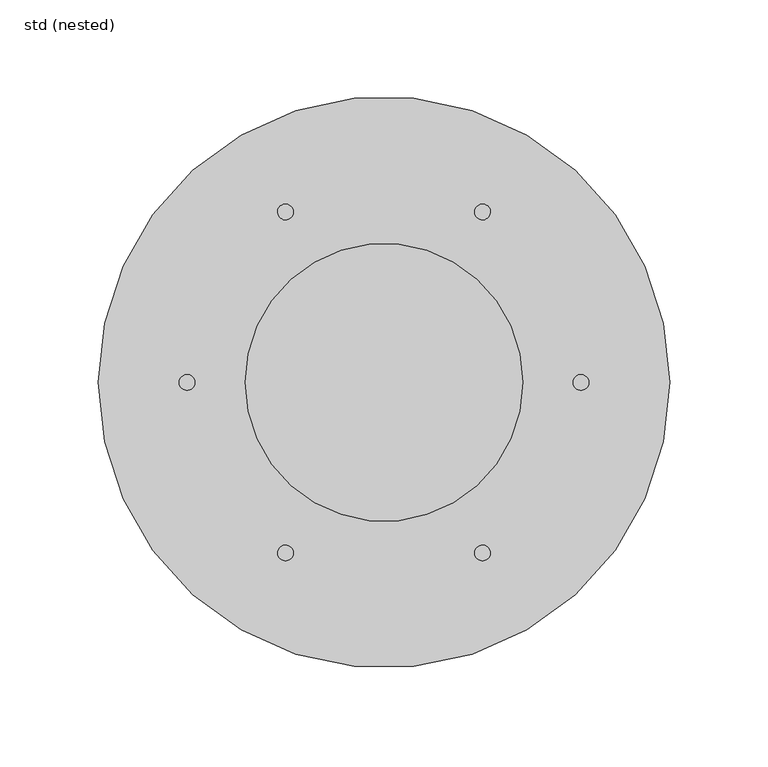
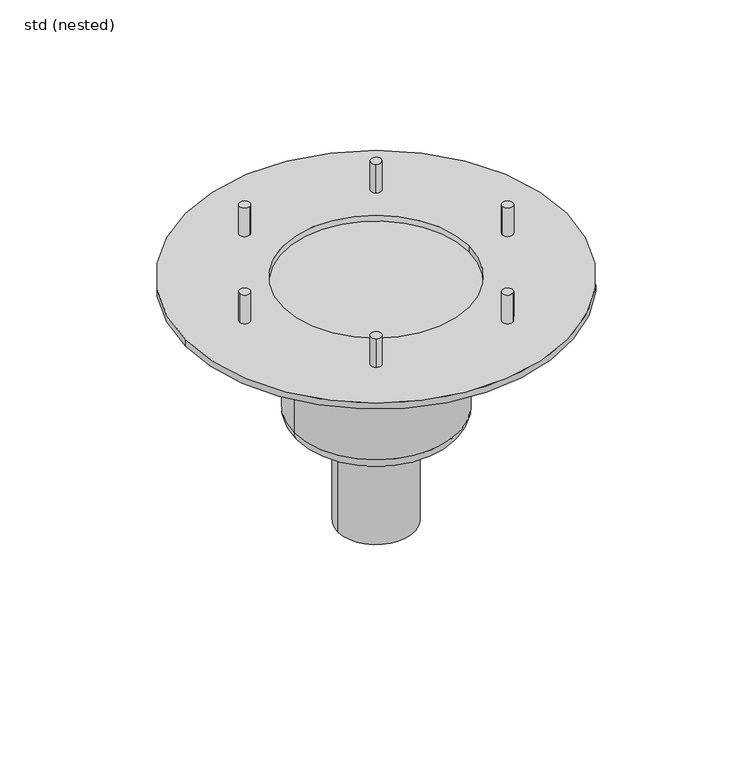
"""IFC4 building model written with IfcOpenShell, lengths in millimetres: sanitary terminal geometry, ZZZ_do not use_PF_CI_WPB_lower section for Passavant Jet_ACO : std (nested)."""

from ifc_helpers import new_model, si_unit, point, frame, frame_2d, origin, origin_with_axes, origin_2d, place, context, project, spatial, circle_curve, ellipse_curve, trimmed, segment, composite_curve, outline, extrude, source, transform, mapped, element, save
from ifc_brep_helpers import plane_surface, cylinder_surface, revolved_surface, advanced_brep


def std_nested_059c46f9(model_context):
    return source(origin(), model_context, "Body", "SolidModel", [
        extrude(outline(composite_curve([segment(trimmed(circle_curve(frame_2d((-50.0, 86.6025404)), 4.0), [point((-52.0, 90.066642))], [point((-48.0, 83.1384388))], False, "CARTESIAN"), True, "CONTINUOUS"), segment(trimmed(circle_curve(frame_2d((-50.0, 86.6025404)), 4.0), [point((-48.0, 83.1384388))], [point((-52.0, 90.066642))], False, "CARTESIAN"), True, "CONTINUOUS")], self_intersect=False)), origin_with_axes(), (0.0, 0.0, 1.0), 23.0),
        extrude(outline(composite_curve([segment(trimmed(circle_curve(frame_2d((-100.0, 0.0)), 4.0), [point((-104.0, 0.0))], [point((-96.0, 0.0))], False, "CARTESIAN"), True, "CONTINUOUS"), segment(trimmed(circle_curve(frame_2d((-100.0, 0.0)), 4.0), [point((-96.0, 0.0))], [point((-104.0, 0.0))], False, "CARTESIAN"), True, "CONTINUOUS")], self_intersect=False)), origin_with_axes(), (0.0, 0.0, 1.0), 23.0),
        extrude(outline(composite_curve([segment(trimmed(circle_curve(frame_2d((-50.0, -86.6025404)), 4.0), [point((-52.0, -90.066642))], [point((-48.0, -83.1384388))], False, "CARTESIAN"), True, "CONTINUOUS"), segment(trimmed(circle_curve(frame_2d((-50.0, -86.6025404)), 4.0), [point((-48.0, -83.1384388))], [point((-52.0, -90.066642))], False, "CARTESIAN"), True, "CONTINUOUS")], self_intersect=False)), origin_with_axes(), (0.0, 0.0, 1.0), 23.0),
        extrude(outline(composite_curve([segment(trimmed(circle_curve(frame_2d((50.0, -86.6025404)), 4.0), [point((52.0, -90.066642))], [point((48.0, -83.1384388))], False, "CARTESIAN"), True, "CONTINUOUS"), segment(trimmed(circle_curve(frame_2d((50.0, -86.6025404)), 4.0), [point((48.0, -83.1384388))], [point((52.0, -90.066642))], False, "CARTESIAN"), True, "CONTINUOUS")], self_intersect=False)), origin_with_axes(), (0.0, 0.0, 1.0), 23.0),
        extrude(outline(composite_curve([segment(trimmed(circle_curve(frame_2d((100.0, 0.0)), 4.0), [point((104.0, 0.0))], [point((96.0, 0.0))], False, "CARTESIAN"), True, "CONTINUOUS"), segment(trimmed(circle_curve(frame_2d((100.0, 0.0)), 4.0), [point((96.0, 0.0))], [point((104.0, 0.0))], False, "CARTESIAN"), True, "CONTINUOUS")], self_intersect=False)), origin_with_axes(), (0.0, 0.0, 1.0), 23.0),
        extrude(outline(composite_curve([segment(trimmed(circle_curve(frame_2d((50.0, 86.6025404)), 4.0), [point((52.0, 90.066642))], [point((48.0, 83.1384388))], False, "CARTESIAN"), True, "CONTINUOUS"), segment(trimmed(circle_curve(frame_2d((50.0, 86.6025404)), 4.0), [point((48.0, 83.1384388))], [point((52.0, 90.066642))], False, "CARTESIAN"), True, "CONTINUOUS")], self_intersect=False)), origin_with_axes(), (0.0, 0.0, 1.0), 23.0),
        advanced_brep(
        [(-52.5, 0.0, -113.5), (52.5, 0.0, -113.5), (0.0, 0.0, -113.5), (-62.5, 0.0, -103.5), (62.5, 0.0, -103.5), (-62.5, 0.0, -24.8), (62.5, 0.0, -24.8), (-73.0, 0.0, -24.8), (73.0, 0.0, -24.8), (-73.0, 0.0, -5.0), (73.0, 0.0, -5.0)],
        [
            (0, 1, circle_curve(frame((0.0, 0.0, -113.5), z_axis=(0.0, 0.0, -1.0), x_axis=(1.0, 0.0, 0.0)), 52.5)),
            (1, 2),
            (2, 0),
            (1, 0, circle_curve(frame((0.0, 0.0, -113.5), z_axis=(0.0, 0.0, -1.0), x_axis=(1.0, 0.0, 0.0)), 52.5)),
            (0, 3, circle_curve(frame((-52.5, 0.0, -103.5), z_axis=(0.0, 1.0, 0.0), x_axis=(-1.0, 0.0, 0.0)), 10.0)),
            (3, 4, circle_curve(frame((0.0, 0.0, -103.5), z_axis=(0.0, 0.0, -1.0), x_axis=(1.0, 0.0, 0.0)), 62.5)),
            (4, 1, circle_curve(frame((52.5, 0.0, -103.5), z_axis=(0.0, 1.0, 0.0), x_axis=(1.0, 0.0, 0.0)), 10.0)),
            (4, 3, circle_curve(frame((0.0, 0.0, -103.5), z_axis=(0.0, 0.0, -1.0), x_axis=(1.0, 0.0, 0.0)), 62.5)),
            (3, 5),
            (5, 6, circle_curve(frame((0.0, 0.0, -24.8), z_axis=(0.0, 0.0, -1.0), x_axis=(1.0, 0.0, 0.0)), 62.5)),
            (6, 4),
            (6, 5, circle_curve(frame((0.0, 0.0, -24.8), z_axis=(0.0, 0.0, -1.0), x_axis=(1.0, 0.0, 0.0)), 62.5)),
            (7, 8, circle_curve(frame((0.0, 0.0, -24.8), z_axis=(0.0, 0.0, -1.0), x_axis=(1.0, 0.0, 0.0)), 73.0)),
            (8, 7, circle_curve(frame((0.0, 0.0, -24.8), z_axis=(0.0, 0.0, -1.0), x_axis=(1.0, 0.0, 0.0)), 73.0)),
            (9, 10, circle_curve(frame((0.0, 0.0, -5.0), z_axis=(0.0, 0.0, 1.0), x_axis=(1.0, 0.0, 0.0)), 73.0)),
            (10, 9, circle_curve(frame((0.0, 0.0, -5.0), z_axis=(0.0, 0.0, 1.0), x_axis=(1.0, 0.0, 0.0)), 73.0)),
            (8, 10),
            (9, 7),
        ],
        [
            plane_surface(frame((0.0, 0.0, -113.5), z_axis=(0.0, 0.0, -1.0), x_axis=(1.0, 0.0, 0.0))),
            revolved_surface(trimmed(ellipse_curve(frame((52.5, 0.0, -103.5), z_axis=(0.0, -1.0, 0.0), x_axis=(1.0, 0.0, 0.0)), 10.0, 10.0), [point((52.5, 0.0, -113.5))], [point((62.5, 0.0, -103.5))], True, "CARTESIAN"), (0.0, 0.0, 165.0), (0.0, 0.0, 1.0)),
            cylinder_surface(frame((0.0, 0.0, 165.0), z_axis=(0.0, 0.0, 1.0), x_axis=(1.0, 0.0, 0.0)), 62.5),
            plane_surface(frame((73.0, 0.0, -24.8), z_axis=(0.0, 0.0, -1.0), x_axis=(0.0, -1.0, 0.0))),
            plane_surface(frame((73.0, 0.0, -5.0), z_axis=(0.0, 0.0, 1.0), x_axis=(0.0, 1.0, 0.0))),
            cylinder_surface(frame((0.0, 0.0, -24.8), z_axis=(0.0, 0.0, 1.0), x_axis=(1.0, 0.0, 0.0)), 73.0),
        ],
        [
            (0, [[1, 2, 3]]),
            (0, [[-2, 4, -3]]),
            (1, [[-1, 5, 6, 7]]),
            (1, [[-4, -7, 8, -5]]),
            (2, [[-6, 9, 10, 11]]),
            (2, [[-8, -11, 12, -9]]),
            (3, [[13, 14], [-10, -12]]),
            (4, [[15, 16]]),
            (5, [[-14, 17, -15, 18]]),
            (5, [[-13, -18, -16, -17]]),
        ],
    ),
        extrude(outline(composite_curve([segment(trimmed(circle_curve(origin_2d(), 29.0), [point((-29.0, 0.0))], [point((29.0, 0.0))], False, "CARTESIAN"), True, "CONTINUOUS"), segment(trimmed(circle_curve(origin_2d(), 29.0), [point((29.0, 0.0))], [point((-29.0, 0.0))], False, "CARTESIAN"), True, "CONTINUOUS")], self_intersect=False)), frame((0.0, 0.0, -195.0), z_axis=(0.0, 0.0, 1.0), x_axis=(1.0, 0.0, 0.0)), (0.0, 0.0, 1.0), 81.5),
        extrude(outline(composite_curve([segment(trimmed(circle_curve(origin_2d(), 145.0), [point((-145.0, 0.0))], [point((145.0, 0.0))], False, "CARTESIAN"), True, "CONTINUOUS"), segment(trimmed(circle_curve(origin_2d(), 145.0), [point((145.0, 0.0))], [point((-145.0, 0.0))], False, "CARTESIAN"), True, "CONTINUOUS")], self_intersect=False), holes=[composite_curve([segment(trimmed(circle_curve(origin_2d(), 70.5), [point((-70.5, 0.0))], [point((70.5, 0.0))], True, "CARTESIAN"), True, "CONTINUOUS"), segment(trimmed(circle_curve(origin_2d(), 70.5), [point((70.5, 0.0))], [point((-70.5, 0.0))], True, "CARTESIAN"), True, "CONTINUOUS")], self_intersect=False)]), frame((0.0, 0.0, -5.0), z_axis=(0.0, 0.0, 1.0), x_axis=(1.0, 0.0, 0.0)), (0.0, 0.0, 1.0), 5.0),
    ])


if __name__ == "__main__":
    model = new_model("IFC4")
    model_context = context("Model", 3, world=origin())
    ifc_project = project(units=[si_unit("LENGTHUNIT", "METRE", prefix="MILLI")], contexts=[model_context])
    site = spatial("IfcSite", under=ifc_project)
    building = spatial("IfcBuilding", under=site)
    placement = place(None, origin())
    std_nested_shape = std_nested_059c46f9(model_context)
    element("IfcSanitaryTerminal", 1, ObjectType="ZZZ_do not use_PF_CI_WPB_lower section for Passavant Jet_ACO : std (nested)", at=placement, inside=building, context=model_context, shape_type="MappedRepresentation", body=[
        mapped(std_nested_shape, transform((0.0, 0.0, 0.0), x_axis=(1.0, 0.0, 0.0), y_axis=(0.0, 1.0, 0.0), z_axis=(0.0, 0.0, 1.0))),
    ])
    save(model, "model.ifc")
